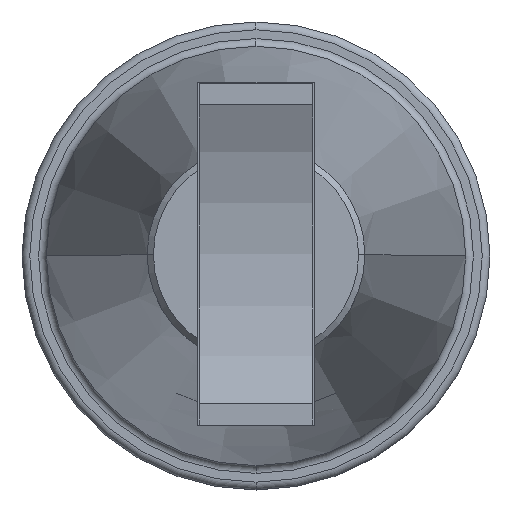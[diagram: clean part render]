
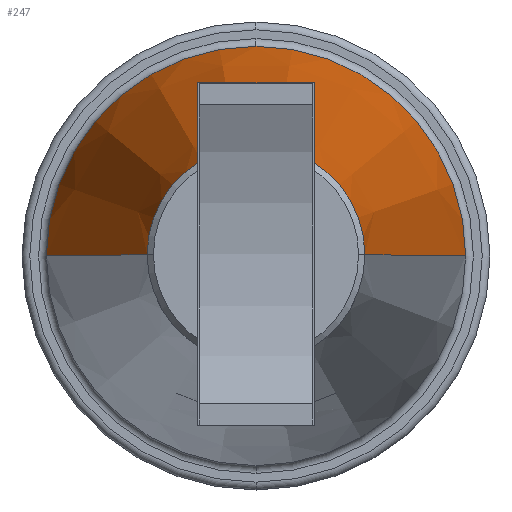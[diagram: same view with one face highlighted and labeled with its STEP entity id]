
A CAD part, top view. The second image highlights one B-rep face of the part: STEP entity #247.
In plain terms, the highlighted conical face has half-angle 7.768 degrees and reference radius 102.093 mm.
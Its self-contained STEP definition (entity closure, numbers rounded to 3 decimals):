
#247=ADVANCED_FACE('',(#553),#554,.T.);
#553=FACE_OUTER_BOUND('',#959,.T.);
#554=CONICAL_SURFACE('',#960,102.093,0.136);
#959=EDGE_LOOP('',(#1511,#1512,#1513,#1514,#1515));
#960=AXIS2_PLACEMENT_3D('',#1516,#1517,#1518);
#1511=ORIENTED_EDGE('',*,*,#2355,.T.);
#1512=ORIENTED_EDGE('',*,*,#2436,.F.);
#1513=ORIENTED_EDGE('',*,*,#2296,.F.);
#1514=ORIENTED_EDGE('',*,*,#2357,.T.);
#1515=ORIENTED_EDGE('',*,*,#2437,.T.);
#1516=CARTESIAN_POINT('',(408.211,528.029,-12.338));
#1517=DIRECTION('',(0.,0.,-1.0));
#1518=DIRECTION('',(1.0,0.,0.));
#2296=EDGE_CURVE('',#2706,#2708,#2709,.T.);
#2355=EDGE_CURVE('',#2813,#2814,#2815,.T.);
#2357=EDGE_CURVE('',#2706,#2816,#2818,.T.);
#2436=EDGE_CURVE('',#2708,#2814,#2942,.T.);
#2437=EDGE_CURVE('',#2816,#2813,#2943,.T.);
#2706=VERTEX_POINT('',#3303);
#2708=VERTEX_POINT('',#3305);
#2709=CIRCLE('',#3306,134.41);
#2813=VERTEX_POINT('',#3764);
#2814=VERTEX_POINT('',#3765);
#2815=LINE('',#3766,#3767);
#2816=VERTEX_POINT('',#3768);
#2818=LINE('',#3770,#3771);
#2942=CIRCLE('',#4255,134.41);
#2943=CIRCLE('',#4256,69.775);
#3303=CARTESIAN_POINT('',(273.801,528.029,-249.231));
#3305=CARTESIAN_POINT('',(408.211,662.439,-249.231));
#3306=AXIS2_PLACEMENT_3D('',#4816,#4817,#4818);
#3764=CARTESIAN_POINT('',(477.986,528.029,224.555));
#3765=CARTESIAN_POINT('',(542.621,528.029,-249.231));
#3766=CARTESIAN_POINT('',(510.304,528.029,-12.338));
#3767=VECTOR('',#4888,1.0);
#3768=CARTESIAN_POINT('',(338.435,528.029,224.555));
#3770=CARTESIAN_POINT('',(306.118,528.029,-12.338));
#3771=VECTOR('',#4892,1.0);
#4255=AXIS2_PLACEMENT_3D('',#4973,#4974,#4975);
#4256=AXIS2_PLACEMENT_3D('',#4976,#4977,#4978);
#4816=CARTESIAN_POINT('',(408.211,528.029,-249.231));
#4817=DIRECTION('',(0.,0.,-1.0));
#4818=DIRECTION('',(1.0,0.,0.));
#4888=DIRECTION('',(0.135,0.,-0.991));
#4892=DIRECTION('',(0.135,0.,0.991));
#4973=CARTESIAN_POINT('',(408.211,528.029,-249.231));
#4974=DIRECTION('',(0.,0.,-1.0));
#4975=DIRECTION('',(1.0,0.,0.));
#4976=CARTESIAN_POINT('',(408.211,528.029,224.555));
#4977=DIRECTION('',(0.,0.,-1.0));
#4978=DIRECTION('',(1.0,0.,0.));
